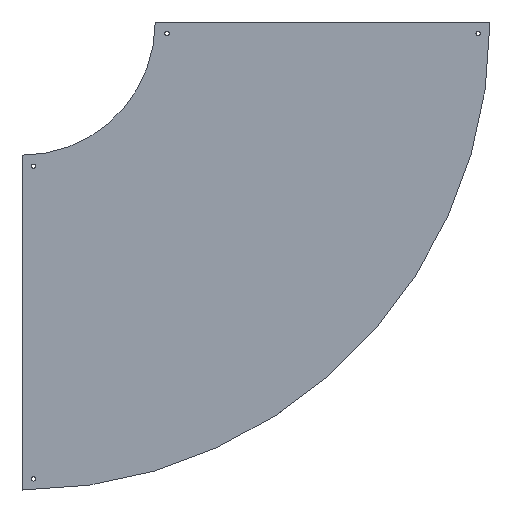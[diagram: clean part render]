
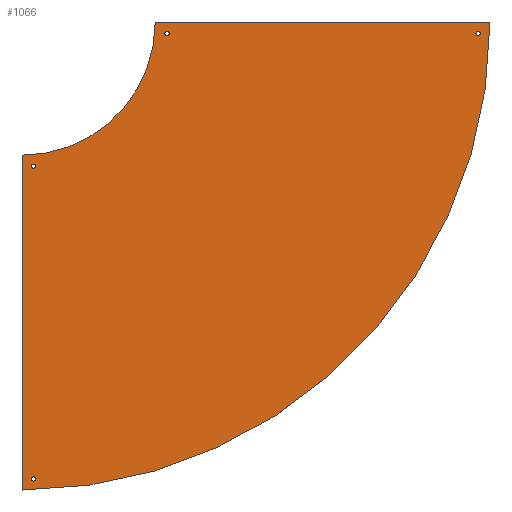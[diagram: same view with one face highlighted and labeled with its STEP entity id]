
A CAD part, top view. The second image highlights one B-rep face of the part: STEP entity #1066.
In plain terms, the highlighted planar face has unit normal (0, 0, 1).
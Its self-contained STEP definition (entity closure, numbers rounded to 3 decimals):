
#49=FACE_BOUND('',#205,.T.);
#50=FACE_BOUND('',#206,.T.);
#51=FACE_BOUND('',#207,.T.);
#52=FACE_BOUND('',#208,.T.);
#63=CIRCLE('',#1156,298.5);
#64=CIRCLE('',#1157,1051.5);
#65=CIRCLE('',#1158,5.);
#66=CIRCLE('',#1159,5.);
#67=CIRCLE('',#1160,5.);
#68=CIRCLE('',#1161,5.);
#69=CIRCLE('',#1162,5.);
#70=CIRCLE('',#1163,5.);
#71=CIRCLE('',#1164,5.);
#72=CIRCLE('',#1165,5.);
#134=FACE_OUTER_BOUND('',#204,.T.);
#204=EDGE_LOOP('',(#826,#827,#828,#829,#830,#831,#832,#833));
#205=EDGE_LOOP('',(#834,#835));
#206=EDGE_LOOP('',(#836,#837));
#207=EDGE_LOOP('',(#838,#839));
#208=EDGE_LOOP('',(#840,#841));
#297=LINE('',#1670,#405);
#298=LINE('',#1673,#406);
#306=LINE('',#1708,#414);
#307=LINE('',#1713,#415);
#308=LINE('',#1715,#416);
#309=LINE('',#1717,#417);
#405=VECTOR('',#1333,304.8);
#406=VECTOR('',#1336,304.8);
#414=VECTOR('',#1368,304.8);
#415=VECTOR('',#1373,304.8);
#416=VECTOR('',#1374,304.8);
#417=VECTOR('',#1375,304.8);
#494=VERTEX_POINT('',#1663);
#497=VERTEX_POINT('',#1668);
#498=VERTEX_POINT('',#1672);
#513=VERTEX_POINT('',#1706);
#514=VERTEX_POINT('',#1710);
#515=VERTEX_POINT('',#1712);
#516=VERTEX_POINT('',#1714);
#517=VERTEX_POINT('',#1716);
#518=VERTEX_POINT('',#1719);
#519=VERTEX_POINT('',#1720);
#520=VERTEX_POINT('',#1723);
#521=VERTEX_POINT('',#1724);
#522=VERTEX_POINT('',#1727);
#523=VERTEX_POINT('',#1728);
#524=VERTEX_POINT('',#1731);
#525=VERTEX_POINT('',#1732);
#609=EDGE_CURVE('',#497,#494,#297,.T.);
#610=EDGE_CURVE('',#494,#498,#298,.T.);
#628=EDGE_CURVE('',#513,#497,#306,.T.);
#629=EDGE_CURVE('',#513,#514,#63,.T.);
#630=EDGE_CURVE('',#514,#515,#307,.T.);
#631=EDGE_CURVE('',#515,#516,#308,.T.);
#632=EDGE_CURVE('',#516,#517,#309,.T.);
#633=EDGE_CURVE('',#517,#498,#64,.T.);
#634=EDGE_CURVE('',#518,#519,#65,.T.);
#635=EDGE_CURVE('',#519,#518,#66,.T.);
#636=EDGE_CURVE('',#520,#521,#67,.T.);
#637=EDGE_CURVE('',#521,#520,#68,.T.);
#638=EDGE_CURVE('',#522,#523,#69,.T.);
#639=EDGE_CURVE('',#523,#522,#70,.T.);
#640=EDGE_CURVE('',#524,#525,#71,.T.);
#641=EDGE_CURVE('',#525,#524,#72,.T.);
#826=ORIENTED_EDGE('',*,*,#609,.F.);
#827=ORIENTED_EDGE('',*,*,#628,.F.);
#828=ORIENTED_EDGE('',*,*,#629,.T.);
#829=ORIENTED_EDGE('',*,*,#630,.T.);
#830=ORIENTED_EDGE('',*,*,#631,.T.);
#831=ORIENTED_EDGE('',*,*,#632,.T.);
#832=ORIENTED_EDGE('',*,*,#633,.T.);
#833=ORIENTED_EDGE('',*,*,#610,.F.);
#834=ORIENTED_EDGE('',*,*,#634,.T.);
#835=ORIENTED_EDGE('',*,*,#635,.T.);
#836=ORIENTED_EDGE('',*,*,#636,.T.);
#837=ORIENTED_EDGE('',*,*,#637,.T.);
#838=ORIENTED_EDGE('',*,*,#638,.T.);
#839=ORIENTED_EDGE('',*,*,#639,.T.);
#840=ORIENTED_EDGE('',*,*,#640,.T.);
#841=ORIENTED_EDGE('',*,*,#641,.T.);
#1018=PLANE('',#1155);
#1066=ADVANCED_FACE('',(#134,#49,#50,#51,#52),#1018,.T.);
#1155=AXIS2_PLACEMENT_3D('',#1709,#1369,#1370);
#1156=AXIS2_PLACEMENT_3D('',#1711,#1371,#1372);
#1157=AXIS2_PLACEMENT_3D('',#1718,#1376,#1377);
#1158=AXIS2_PLACEMENT_3D('',#1721,#1378,#1379);
#1159=AXIS2_PLACEMENT_3D('',#1722,#1380,#1381);
#1160=AXIS2_PLACEMENT_3D('',#1725,#1382,#1383);
#1161=AXIS2_PLACEMENT_3D('',#1726,#1384,#1385);
#1162=AXIS2_PLACEMENT_3D('',#1729,#1386,#1387);
#1163=AXIS2_PLACEMENT_3D('',#1730,#1388,#1389);
#1164=AXIS2_PLACEMENT_3D('',#1733,#1390,#1391);
#1165=AXIS2_PLACEMENT_3D('',#1734,#1392,#1393);
#1333=DIRECTION('',(1.,0.,0.));
#1336=DIRECTION('',(0.,-1.,0.));
#1368=DIRECTION('',(0.,1.,0.));
#1369=DIRECTION('center_axis',(0.,0.,1.));
#1370=DIRECTION('ref_axis',(0.,-1.,0.));
#1371=DIRECTION('center_axis',(0.,0.,-1.));
#1372=DIRECTION('ref_axis',(1.,0.,0.));
#1373=DIRECTION('',(-1.,0.,0.));
#1374=DIRECTION('',(0.,-1.,0.));
#1375=DIRECTION('',(1.,0.,0.));
#1376=DIRECTION('center_axis',(0.,0.,1.));
#1377=DIRECTION('ref_axis',(1.,0.,0.));
#1378=DIRECTION('center_axis',(0.,0.,-1.));
#1379=DIRECTION('ref_axis',(1.,0.,0.));
#1380=DIRECTION('center_axis',(0.,0.,-1.));
#1381=DIRECTION('ref_axis',(1.,0.,0.));
#1382=DIRECTION('center_axis',(0.,0.,-1.));
#1383=DIRECTION('ref_axis',(1.,0.,0.));
#1384=DIRECTION('center_axis',(0.,0.,-1.));
#1385=DIRECTION('ref_axis',(1.,0.,0.));
#1386=DIRECTION('center_axis',(0.,0.,-1.));
#1387=DIRECTION('ref_axis',(1.,0.,0.));
#1388=DIRECTION('center_axis',(0.,0.,-1.));
#1389=DIRECTION('ref_axis',(1.,0.,0.));
#1390=DIRECTION('center_axis',(0.,0.,-1.));
#1391=DIRECTION('ref_axis',(1.,0.,0.));
#1392=DIRECTION('center_axis',(0.,0.,-1.));
#1393=DIRECTION('ref_axis',(1.,0.,0.));
#1663=CARTESIAN_POINT('',(376.5,676.,1.5));
#1668=CARTESIAN_POINT('',(-376.5,676.,1.5));
#1670=CARTESIAN_POINT('',(-376.5,676.,1.5));
#1672=CARTESIAN_POINT('',(376.5,675.,1.5));
#1673=CARTESIAN_POINT('',(376.5,676.,1.5));
#1706=CARTESIAN_POINT('',(-376.5,675.,1.5));
#1708=CARTESIAN_POINT('',(-376.5,676.,1.5));
#1709=CARTESIAN_POINT('Origin',(-376.5,676.,1.5));
#1710=CARTESIAN_POINT('',(-675.,376.5,1.5));
#1711=CARTESIAN_POINT('Origin',(-675.,675.,1.5));
#1712=CARTESIAN_POINT('',(-676.,376.5,1.5));
#1713=CARTESIAN_POINT('',(-675.,376.5,1.5));
#1714=CARTESIAN_POINT('',(-676.,-376.5,1.5));
#1715=CARTESIAN_POINT('',(-676.,-376.5,1.5));
#1716=CARTESIAN_POINT('',(-675.,-376.5,1.5));
#1717=CARTESIAN_POINT('',(-675.,-376.5,1.5));
#1718=CARTESIAN_POINT('Origin',(-675.,675.,1.5));
#1719=CARTESIAN_POINT('',(-645.,351.5,1.5));
#1720=CARTESIAN_POINT('',(-655.,351.5,1.5));
#1721=CARTESIAN_POINT('Origin',(-650.,351.5,1.5));
#1722=CARTESIAN_POINT('Origin',(-650.,351.5,1.5));
#1723=CARTESIAN_POINT('',(-645.,-351.5,1.5));
#1724=CARTESIAN_POINT('',(-655.,-351.5,1.5));
#1725=CARTESIAN_POINT('Origin',(-650.,-351.5,1.5));
#1726=CARTESIAN_POINT('Origin',(-650.,-351.5,1.5));
#1727=CARTESIAN_POINT('',(-345.,650.,1.5));
#1728=CARTESIAN_POINT('',(-355.,650.,1.5));
#1729=CARTESIAN_POINT('Origin',(-350.,650.,1.5));
#1730=CARTESIAN_POINT('Origin',(-350.,650.,1.5));
#1731=CARTESIAN_POINT('',(355.,650.,1.5));
#1732=CARTESIAN_POINT('',(345.,650.,1.5));
#1733=CARTESIAN_POINT('Origin',(350.,650.,1.5));
#1734=CARTESIAN_POINT('Origin',(350.,650.,1.5));
